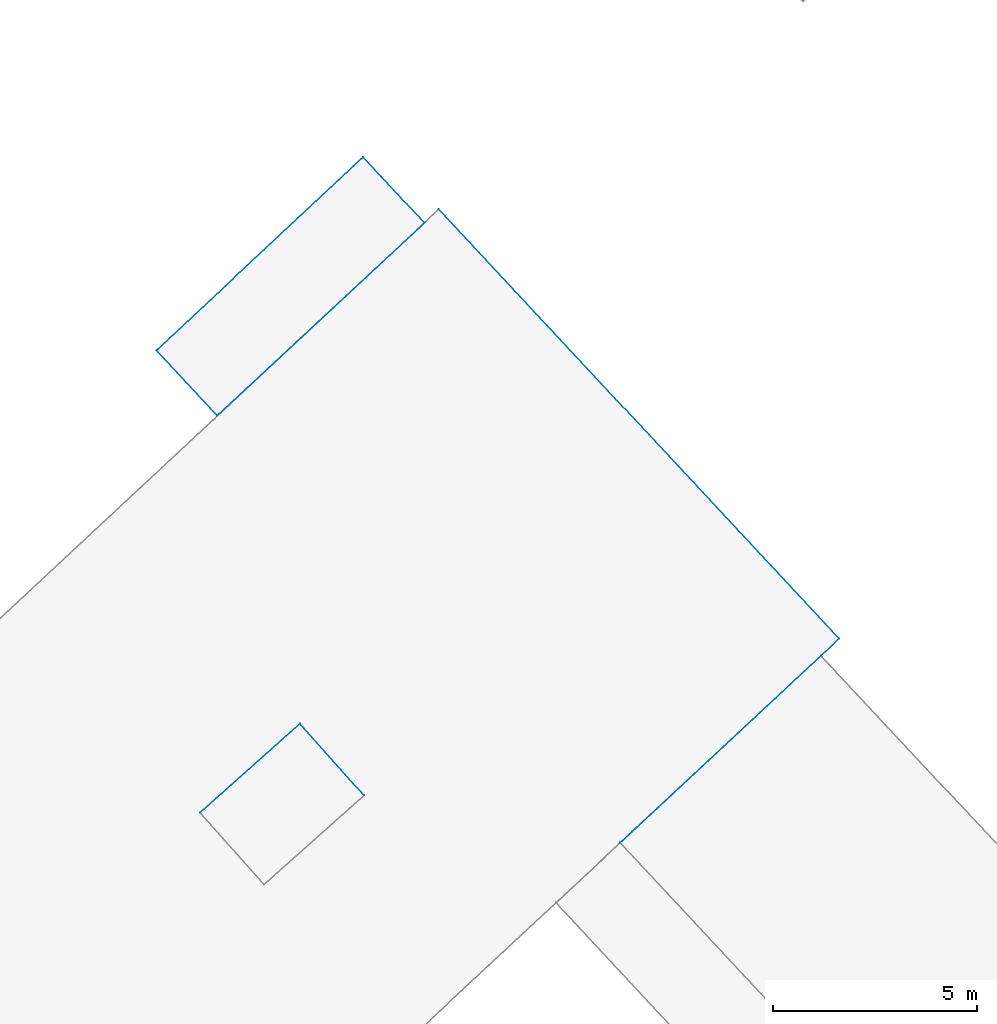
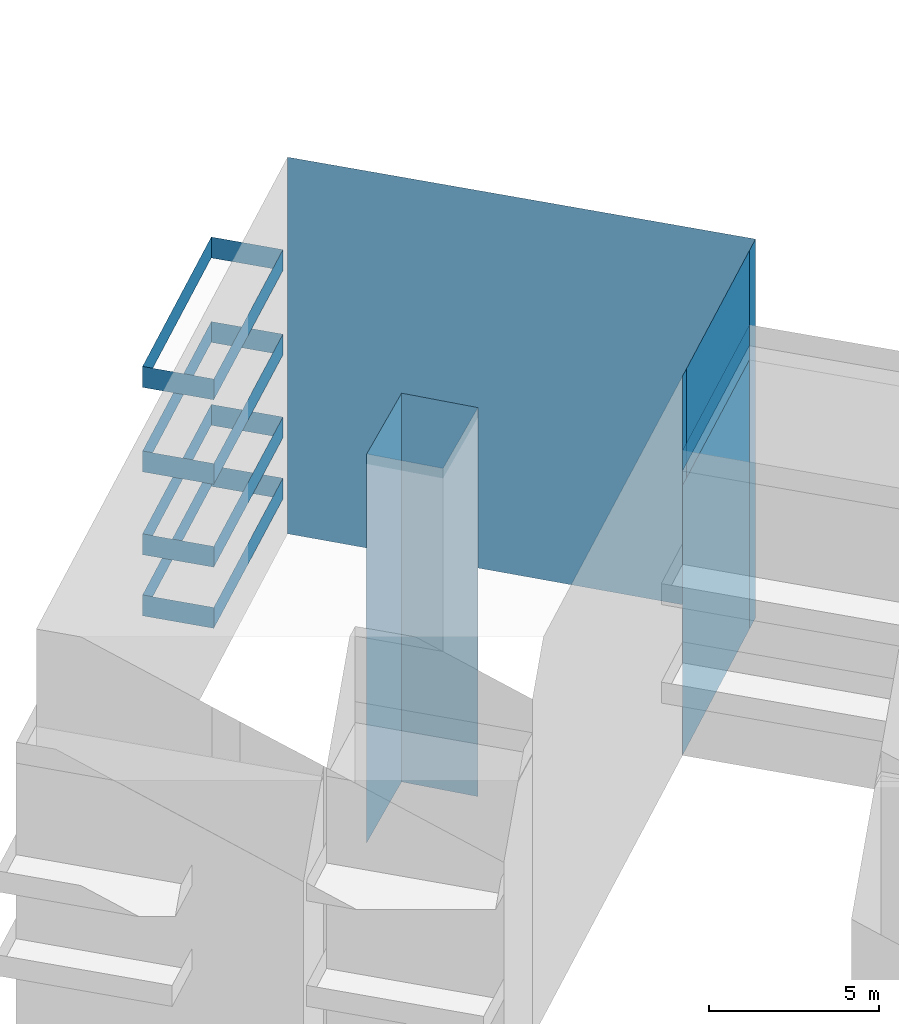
# Not in any storey, part 26 of 136: 41 walls.
"""IFC4 building model written with IfcOpenShell, lengths in metres."""

from ifc_helpers import new_model, entity, si_unit, converted_unit, frame, origin, place, context, subcontext, project, spatial, face_set, surface_model, element, save


model = new_model("IFC4")

# Units and contexts
model_context = context("Model", 3, precision=1e-05, world=origin())
body_context = subcontext(model_context, "Body", "Model", "MODEL_VIEW")
ifc_project = project(units=[converted_unit("PLANEANGLEUNIT", "DEGREE", entity("IfcRatioMeasure", 0.0174532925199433), si_unit("PLANEANGLEUNIT", "RADIAN"), dimensions=[0, 0, 0, 0, 0, 0, 0]), si_unit("AREAUNIT", "SQUARE_METRE"), si_unit("LENGTHUNIT", "METRE")], contexts=[model_context])

# Site, building
site_placement = place(None, origin())
site = spatial("IfcSite", under=ifc_project, at=site_placement, Name="_site")
building_1_placement = place(site_placement, origin())
building_1 = spatial("IfcBuilding", under=site, at=building_1_placement, Name="_building")

# Walls
wall_1_placement = place(building_1_placement, origin())
element("IfcWall", 1, at=wall_1_placement, inside=building_1, Name="Wall", PredefinedType="NOTDEFINED", context=body_context, shape_type="SurfaceModel", body=[
    surface_model("IfcFaceBasedSurfaceModel", [(122.92, 16.3, 42.0), (124.42, 14.69, 42.0), (124.42, 14.69, 42.75), (122.92, 16.3, 42.75)], [face_set([[[0, 1, 2, 3]]])]),
])
wall_2_placement = place(building_1_placement, origin())
element("IfcWall", 2, at=wall_2_placement, inside=building_1, Name="Wall", PredefinedType="NOTDEFINED", context=body_context, shape_type="SurfaceModel", body=[
    surface_model("IfcFaceBasedSurfaceModel", [(124.42, 14.69, 42.0), (119.35, 9.97, 42.0), (119.35, 9.97, 42.75), (124.42, 14.69, 42.75)], [face_set([[[0, 1, 2, 3]]])]),
])
wall_3_placement = place(building_1_placement, origin())
element("IfcWall", 3, at=wall_3_placement, inside=building_1, Name="Wall", PredefinedType="NOTDEFINED", context=body_context, shape_type="SurfaceModel", body=[
    surface_model("IfcFaceBasedSurfaceModel", [(122.92, 16.3, 42.0), (124.42, 14.69, 42.0), (124.42, 14.69, 42.75), (122.92, 16.3, 42.75)], [face_set([[[0, 1, 2, 3]]])]),
])
wall_4_placement = place(building_1_placement, origin())
element("IfcWall", 4, at=wall_4_placement, inside=building_1, Name="Wall", PredefinedType="NOTDEFINED", context=body_context, shape_type="SurfaceModel", body=[
    surface_model("IfcFaceBasedSurfaceModel", [(122.92, 16.3, 39.81), (124.42, 14.69, 39.81), (124.42, 14.69, 40.56), (122.92, 16.3, 40.56)], [face_set([[[0, 1, 2, 3]]])]),
])
wall_5_placement = place(building_1_placement, origin())
element("IfcWall", 5, at=wall_5_placement, inside=building_1, Name="Wall", PredefinedType="NOTDEFINED", context=body_context, shape_type="SurfaceModel", body=[
    surface_model("IfcFaceBasedSurfaceModel", [(124.42, 14.69, 39.81), (119.35, 9.97, 39.81), (119.35, 9.97, 40.56), (124.42, 14.69, 40.56)], [face_set([[[0, 1, 2, 3]]])]),
])
wall_6_placement = place(building_1_placement, origin())
element("IfcWall", 6, at=wall_6_placement, inside=building_1, Name="Wall", PredefinedType="NOTDEFINED", context=body_context, shape_type="SurfaceModel", body=[
    surface_model("IfcFaceBasedSurfaceModel", [(122.92, 16.3, 39.81), (124.42, 14.69, 39.81), (124.42, 14.69, 40.56), (122.92, 16.3, 40.56)], [face_set([[[0, 1, 2, 3]]])]),
])
wall_7_placement = place(building_1_placement, origin())
element("IfcWall", 7, at=wall_7_placement, inside=building_1, Name="Wall", PredefinedType="NOTDEFINED", context=body_context, shape_type="SurfaceModel", body=[
    surface_model("IfcFaceBasedSurfaceModel", [(122.92, 16.3, 44.97), (124.42, 14.69, 44.97), (124.42, 14.69, 45.72), (122.92, 16.3, 45.72)], [face_set([[[0, 1, 2, 3]]])]),
])
wall_8_placement = place(building_1_placement, origin())
element("IfcWall", 8, at=wall_8_placement, inside=building_1, Name="Wall", PredefinedType="NOTDEFINED", context=body_context, shape_type="SurfaceModel", body=[
    surface_model("IfcFaceBasedSurfaceModel", [(124.42, 14.69, 44.97), (119.35, 9.97, 44.97), (119.35, 9.97, 45.72), (124.42, 14.69, 45.72)], [face_set([[[0, 1, 2, 3]]])]),
])
wall_9_placement = place(building_1_placement, origin())
element("IfcWall", 9, at=wall_9_placement, inside=building_1, Name="Wall", PredefinedType="NOTDEFINED", context=body_context, shape_type="SurfaceModel", body=[
    surface_model("IfcFaceBasedSurfaceModel", [(122.92, 16.3, 44.97), (124.42, 14.69, 44.97), (124.42, 14.69, 45.72), (122.92, 16.3, 45.72)], [face_set([[[0, 1, 2, 3]]])]),
])
wall_10_placement = place(building_1_placement, origin())
element("IfcWall", 10, at=wall_10_placement, inside=building_1, Name="Wall", PredefinedType="NOTDEFINED", context=body_context, shape_type="SurfaceModel", body=[
    surface_model("IfcFaceBasedSurfaceModel", [(134.57, 4.521, 51.74), (134.12, 4.101, 51.74), (134.12, 4.101, 38.159), (134.57, 4.521, 38.161)], [face_set([[[0, 1, 2, 3]]])]),
])
wall_11_placement = place(building_1_placement, origin())
element("IfcWall", 11, at=wall_11_placement, inside=building_1, Name="Wall", PredefinedType="NOTDEFINED", context=body_context, shape_type="SurfaceModel", body=[
    surface_model("IfcFaceBasedSurfaceModel", [(124.77, 15.021, 51.74), (134.57, 4.521, 51.74), (134.57, 4.521, 38.161), (124.77, 15.021, 38.238)], [face_set([[[0, 1, 2, 3]]])]),
])
wall_12_placement = place(building_1_placement, origin())
element("IfcWall", 12, at=wall_12_placement, inside=building_1, Name="Wall", PredefinedType="NOTDEFINED", context=body_context, shape_type="SurfaceModel", body=[
    surface_model("IfcFaceBasedSurfaceModel", [(122.92, 16.3, 48.0), (124.42, 14.69, 48.0), (124.42, 14.69, 48.75), (122.92, 16.3, 48.75)], [face_set([[[0, 1, 2, 3]]])]),
])
wall_13_placement = place(building_1_placement, origin())
element("IfcWall", 13, at=wall_13_placement, inside=building_1, Name="Wall", PredefinedType="NOTDEFINED", context=body_context, shape_type="SurfaceModel", body=[
    surface_model("IfcFaceBasedSurfaceModel", [(124.42, 14.69, 48.0), (119.35, 9.97, 48.0), (119.35, 9.97, 48.75), (124.42, 14.69, 48.75)], [face_set([[[0, 1, 2, 3]]])]),
])
wall_14_placement = place(building_1_placement, origin())
element("IfcWall", 14, at=wall_14_placement, inside=building_1, Name="Wall", PredefinedType="NOTDEFINED", context=body_context, shape_type="SurfaceModel", body=[
    surface_model("IfcFaceBasedSurfaceModel", [(122.92, 16.3, 48.0), (124.42, 14.69, 48.0), (124.42, 14.69, 48.75), (122.92, 16.3, 48.75)], [face_set([[[0, 1, 2, 3]]])]),
])

# Building
building_2_placement = place(site_placement, origin())
building_2 = spatial("IfcBuilding", under=site, at=building_2_placement, Name="_building")

# Walls
wall_15_placement = place(building_2_placement, origin())
element("IfcWall", 15, at=wall_15_placement, inside=building_2, Name="Wall", PredefinedType="NOTDEFINED", context=body_context, shape_type="SurfaceModel", body=[
    surface_model("IfcFaceBasedSurfaceModel", [(118.93, 0.26, 52.1), (121.37, 2.44, 52.1), (121.37, 2.44, 38.165), (118.93, 0.26, 38.157)], [face_set([[[0, 1, 2, 3]]])]),
])
wall_16_placement = place(building_2_placement, origin())
element("IfcWall", 16, at=wall_16_placement, inside=building_2, Name="Wall", PredefinedType="NOTDEFINED", context=body_context, shape_type="SurfaceModel", body=[
    surface_model("IfcFaceBasedSurfaceModel", [(124.42, 14.69, 42.0), (119.35, 9.97, 42.0), (119.35, 9.97, 42.75), (124.42, 14.69, 42.75)], [face_set([[[0, 1, 2, 3]]])]),
])
wall_17_placement = place(building_2_placement, origin())
element("IfcWall", 17, at=wall_17_placement, inside=building_2, Name="Wall", PredefinedType="NOTDEFINED", context=body_context, shape_type="SurfaceModel", body=[
    surface_model("IfcFaceBasedSurfaceModel", [(117.86, 11.57, 42.0), (122.92, 16.3, 42.0), (122.92, 16.3, 42.75), (117.86, 11.57, 42.75)], [face_set([[[0, 1, 2, 3]]])]),
])
wall_18_placement = place(building_2_placement, origin())
element("IfcWall", 18, at=wall_18_placement, inside=building_2, Name="Wall", PredefinedType="NOTDEFINED", context=body_context, shape_type="SurfaceModel", body=[
    surface_model("IfcFaceBasedSurfaceModel", [(119.35, 9.97, 42.0), (117.86, 11.57, 42.0), (117.86, 11.57, 42.75), (119.35, 9.97, 42.75)], [face_set([[[0, 1, 2, 3]]])]),
])
wall_19_placement = place(building_2_placement, origin())
element("IfcWall", 19, at=wall_19_placement, inside=building_2, Name="Wall", PredefinedType="NOTDEFINED", context=body_context, shape_type="SurfaceModel", body=[
    surface_model("IfcFaceBasedSurfaceModel", [(117.86, 11.57, 42.0), (122.92, 16.3, 42.0), (122.92, 16.3, 42.75), (117.86, 11.57, 42.75)], [face_set([[[0, 1, 2, 3]]])]),
])
wall_20_placement = place(building_2_placement, origin())
element("IfcWall", 20, at=wall_20_placement, inside=building_2, Name="Wall", PredefinedType="NOTDEFINED", context=body_context, shape_type="SurfaceModel", body=[
    surface_model("IfcFaceBasedSurfaceModel", [(119.35, 9.97, 42.0), (117.86, 11.57, 42.0), (117.86, 11.57, 42.75), (119.35, 9.97, 42.75)], [face_set([[[0, 1, 2, 3]]])]),
])
wall_21_placement = place(building_2_placement, origin())
element("IfcWall", 21, at=wall_21_placement, inside=building_2, Name="Wall", PredefinedType="NOTDEFINED", context=body_context, shape_type="SurfaceModel", body=[
    surface_model("IfcFaceBasedSurfaceModel", [(129.21, -0.479, 48.33), (134.12, 4.101, 48.33), (134.12, 4.101, 38.159), (129.21, -0.479, 38.142)], [face_set([[[0, 1, 2, 3]]])]),
])
wall_22_placement = place(building_2_placement, origin())
element("IfcWall", 22, at=wall_22_placement, inside=building_2, Name="Wall", PredefinedType="NOTDEFINED", context=body_context, shape_type="SurfaceModel", body=[
    surface_model("IfcFaceBasedSurfaceModel", [(124.42, 14.69, 39.81), (119.35, 9.97, 39.81), (119.35, 9.97, 40.56), (124.42, 14.69, 40.56)], [face_set([[[0, 1, 2, 3]]])]),
])
wall_23_placement = place(building_2_placement, origin())
element("IfcWall", 23, at=wall_23_placement, inside=building_2, Name="Wall", PredefinedType="NOTDEFINED", context=body_context, shape_type="SurfaceModel", body=[
    surface_model("IfcFaceBasedSurfaceModel", [(117.86, 11.57, 39.81), (122.92, 16.3, 39.81), (122.92, 16.3, 40.56), (117.86, 11.57, 40.56)], [face_set([[[0, 1, 2, 3]]])]),
])
wall_24_placement = place(building_2_placement, origin())
element("IfcWall", 24, at=wall_24_placement, inside=building_2, Name="Wall", PredefinedType="NOTDEFINED", context=body_context, shape_type="SurfaceModel", body=[
    surface_model("IfcFaceBasedSurfaceModel", [(119.35, 9.97, 39.81), (117.86, 11.57, 39.81), (117.86, 11.57, 40.56), (119.35, 9.97, 40.56)], [face_set([[[0, 1, 2, 3]]])]),
])
wall_25_placement = place(building_2_placement, origin())
element("IfcWall", 25, at=wall_25_placement, inside=building_2, Name="Wall", PredefinedType="NOTDEFINED", context=body_context, shape_type="SurfaceModel", body=[
    surface_model("IfcFaceBasedSurfaceModel", [(117.86, 11.57, 39.81), (122.92, 16.3, 39.81), (122.92, 16.3, 40.56), (117.86, 11.57, 40.56)], [face_set([[[0, 1, 2, 3]]])]),
])
wall_26_placement = place(building_2_placement, origin())
element("IfcWall", 26, at=wall_26_placement, inside=building_2, Name="Wall", PredefinedType="NOTDEFINED", context=body_context, shape_type="SurfaceModel", body=[
    surface_model("IfcFaceBasedSurfaceModel", [(119.35, 9.97, 39.81), (117.86, 11.57, 39.81), (117.86, 11.57, 40.56), (119.35, 9.97, 40.56)], [face_set([[[0, 1, 2, 3]]])]),
])
wall_27_placement = place(building_2_placement, origin())
element("IfcWall", 27, at=wall_27_placement, inside=building_2, Name="Wall", PredefinedType="NOTDEFINED", context=body_context, shape_type="SurfaceModel", body=[
    surface_model("IfcFaceBasedSurfaceModel", [(121.37, 2.44, 52.1), (122.94, 0.68, 52.1), (122.94, 0.68, 38.155), (121.37, 2.44, 38.165)], [face_set([[[0, 1, 2, 3]]])]),
])
wall_28_placement = place(building_2_placement, origin())
element("IfcWall", 28, at=wall_28_placement, inside=building_2, Name="Wall", PredefinedType="NOTDEFINED", context=body_context, shape_type="SurfaceModel", body=[
    surface_model("IfcFaceBasedSurfaceModel", [(124.42, 14.69, 44.97), (119.35, 9.97, 44.97), (119.35, 9.97, 45.72), (124.42, 14.69, 45.72)], [face_set([[[0, 1, 2, 3]]])]),
])
wall_29_placement = place(building_2_placement, origin())
element("IfcWall", 29, at=wall_29_placement, inside=building_2, Name="Wall", PredefinedType="NOTDEFINED", context=body_context, shape_type="SurfaceModel", body=[
    surface_model("IfcFaceBasedSurfaceModel", [(117.86, 11.57, 44.97), (122.92, 16.3, 44.97), (122.92, 16.3, 45.72), (117.86, 11.57, 45.72)], [face_set([[[0, 1, 2, 3]]])]),
])
wall_30_placement = place(building_2_placement, origin())
element("IfcWall", 30, at=wall_30_placement, inside=building_2, Name="Wall", PredefinedType="NOTDEFINED", context=body_context, shape_type="SurfaceModel", body=[
    surface_model("IfcFaceBasedSurfaceModel", [(119.35, 9.97, 44.97), (117.86, 11.57, 44.97), (117.86, 11.57, 45.72), (119.35, 9.97, 45.72)], [face_set([[[0, 1, 2, 3]]])]),
])
wall_31_placement = place(building_2_placement, origin())
element("IfcWall", 31, at=wall_31_placement, inside=building_2, Name="Wall", PredefinedType="NOTDEFINED", context=body_context, shape_type="SurfaceModel", body=[
    surface_model("IfcFaceBasedSurfaceModel", [(117.86, 11.57, 44.97), (122.92, 16.3, 44.97), (122.92, 16.3, 45.72), (117.86, 11.57, 45.72)], [face_set([[[0, 1, 2, 3]]])]),
])
wall_32_placement = place(building_2_placement, origin())
element("IfcWall", 32, at=wall_32_placement, inside=building_2, Name="Wall", PredefinedType="NOTDEFINED", context=body_context, shape_type="SurfaceModel", body=[
    surface_model("IfcFaceBasedSurfaceModel", [(119.35, 9.97, 44.97), (117.86, 11.57, 44.97), (117.86, 11.57, 45.72), (119.35, 9.97, 45.72)], [face_set([[[0, 1, 2, 3]]])]),
])
wall_33_placement = place(building_2_placement, origin())
element("IfcWall", 33, at=wall_33_placement, inside=building_2, Name="Wall", PredefinedType="NOTDEFINED", context=body_context, shape_type="SurfaceModel", body=[
    surface_model("IfcFaceBasedSurfaceModel", [(129.5, -0.21, 51.74), (129.21, -0.479, 51.74), (129.21, -0.479, 47.82), (129.5, -0.21, 47.82)], [face_set([[[0, 1, 2, 3]]])]),
])
wall_34_placement = place(building_2_placement, origin())
element("IfcWall", 34, at=wall_34_placement, inside=building_2, Name="Wall", PredefinedType="NOTDEFINED", context=body_context, shape_type="SurfaceModel", body=[
    surface_model("IfcFaceBasedSurfaceModel", [(134.12, 4.101, 51.74), (129.5, -0.21, 51.74), (129.5, -0.21, 47.82), (134.12, 4.101, 47.82)], [face_set([[[0, 1, 2, 3]]])]),
])
wall_35_placement = place(building_2_placement, origin())
element("IfcWall", 35, at=wall_35_placement, inside=building_2, Name="Wall", PredefinedType="NOTDEFINED", context=body_context, shape_type="SurfaceModel", body=[
    surface_model("IfcFaceBasedSurfaceModel", [(124.42, 14.69, 48.0), (119.35, 9.97, 48.0), (119.35, 9.97, 48.75), (124.42, 14.69, 48.75)], [face_set([[[0, 1, 2, 3]]])]),
])
wall_36_placement = place(building_2_placement, origin())
element("IfcWall", 36, at=wall_36_placement, inside=building_2, Name="Wall", PredefinedType="NOTDEFINED", context=body_context, shape_type="SurfaceModel", body=[
    surface_model("IfcFaceBasedSurfaceModel", [(117.86, 11.57, 48.0), (122.92, 16.3, 48.0), (122.92, 16.3, 48.75), (117.86, 11.57, 48.75)], [face_set([[[0, 1, 2, 3]]])]),
])
wall_37_placement = place(building_2_placement, origin())
element("IfcWall", 37, at=wall_37_placement, inside=building_2, Name="Wall", PredefinedType="NOTDEFINED", context=body_context, shape_type="SurfaceModel", body=[
    surface_model("IfcFaceBasedSurfaceModel", [(119.35, 9.97, 48.0), (117.86, 11.57, 48.0), (117.86, 11.57, 48.75), (119.35, 9.97, 48.75)], [face_set([[[0, 1, 2, 3]]])]),
])
wall_38_placement = place(building_2_placement, origin())
element("IfcWall", 38, at=wall_38_placement, inside=building_2, Name="Wall", PredefinedType="NOTDEFINED", context=body_context, shape_type="SurfaceModel", body=[
    surface_model("IfcFaceBasedSurfaceModel", [(117.86, 11.57, 48.0), (122.92, 16.3, 48.0), (122.92, 16.3, 48.75), (117.86, 11.57, 48.75)], [face_set([[[0, 1, 2, 3]]])]),
])
wall_39_placement = place(building_2_placement, origin())
element("IfcWall", 39, at=wall_39_placement, inside=building_2, Name="Wall", PredefinedType="NOTDEFINED", context=body_context, shape_type="SurfaceModel", body=[
    surface_model("IfcFaceBasedSurfaceModel", [(119.35, 9.97, 48.0), (117.86, 11.57, 48.0), (117.86, 11.57, 48.75), (119.35, 9.97, 48.75)], [face_set([[[0, 1, 2, 3]]])]),
])
for number, where, name in (
    (40, (0.0, 0.0, 0.0), "Wall"),
    (41, (0.0, 0.0, 0.0), "Wall"),
):
    element("IfcWall", number, at=place(building_2_placement, frame(where)), inside=building_2, Name=name, PredefinedType="NOTDEFINED", context=body_context, shape_type="SurfaceModel", body=[
        surface_model("IfcFaceBasedSurfaceModel", [(129.21, -0.479, 48.33), (134.12, 4.101, 48.33), (134.12, 4.101, 49.08), (129.21, -0.479, 49.08)], [face_set([[[0, 1, 2, 3]]])]),
    ])

save(model, "model.ifc")
